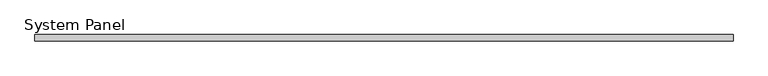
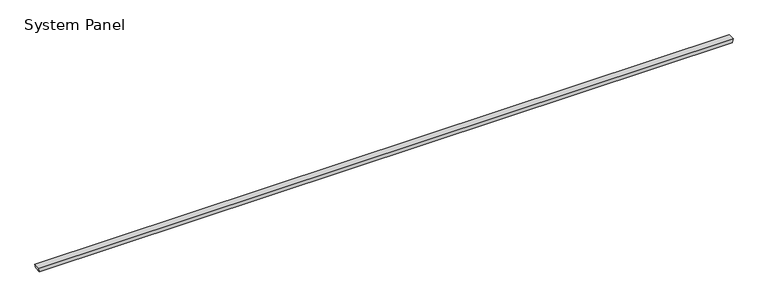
"""IFC4 building model written with IfcOpenShell, lengths in millimetres: plate geometry, System Panel : Equitilt_125mm_Plain_Surfmist."""

from ifc_helpers import new_model, si_unit, frame, origin, place, context, project, spatial, polyline, outline, extrude, source, transform, mapped, element, save


def system_panel_00bbb9c2(model_context):
    return source(origin(), model_context, "Body", "SweptSolid", [
        extrude(outline(polyline([(0.0, -6782.6149856), (0.0, 6782.6149856), (79.9704237, 6800.0), (79.9704237, -6800.0), (0.0, -6782.6149856)])), frame((0.0, -125.0, 0.0), z_axis=(0.0, 1.0, 0.0), x_axis=(0.0, 0.0, 1.0)), (0.0, 0.0, 1.0), 125.0),
    ])


if __name__ == "__main__":
    model = new_model("IFC4")
    model_context = context("Model", 3, world=origin())
    ifc_project = project(units=[si_unit("LENGTHUNIT", "METRE", prefix="MILLI")], contexts=[model_context])
    site = spatial("IfcSite", under=ifc_project)
    building = spatial("IfcBuilding", under=site)
    placement = place(None, origin())
    system_panel_shape = system_panel_00bbb9c2(model_context)
    element("IfcPlate", 1, ObjectType="System Panel : Equitilt_125mm_Plain_Surfmist", at=placement, inside=building, context=model_context, shape_type="MappedRepresentation", body=[
        mapped(system_panel_shape, transform((0.0, 0.0, 0.0), x_axis=(1.0, 0.0, 0.0), y_axis=(0.0, 1.0, 0.0), z_axis=(0.0, 0.0, 1.0))),
    ])
    save(model, "model.ifc")
